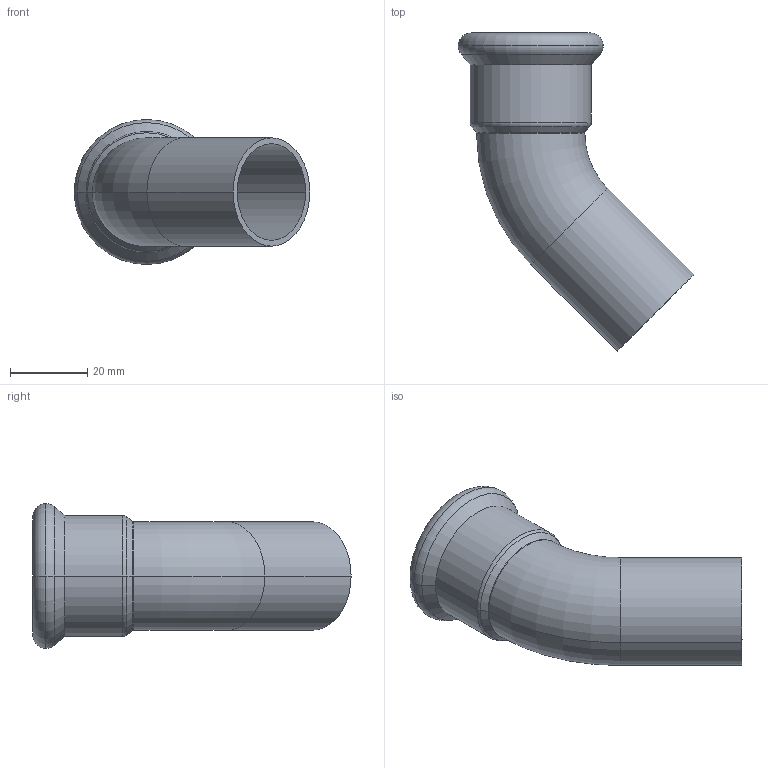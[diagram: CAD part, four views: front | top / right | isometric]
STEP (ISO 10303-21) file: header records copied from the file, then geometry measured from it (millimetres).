
FILE_DESCRIPTION(('CoCreate Modeling STEP Export'),'2;1');
FILE_NAME('C1412 28x28.stp','2014-11-11T16:42:11',(''),(''),'CoCreate Modeling STEP processor for AP214 (Solid Model)','CoCreate Modeling 17.00A 17-Jun-2010 (C) Parametric Technology GmbH','');
FILE_SCHEMA(('AUTOMOTIVE_DESIGN { 1 0 10303 214 1 1 1 1 }'));
Length unit declared in the file: millimetre
Products named in the file (2): C1412_28x28
Assembly tree (1 placements, depth 2):
  C1412_28x28
    C1412_28x28
Bounding box: 60.87 x 82.24 x 37.45 mm (x, y, z)
Volume: 12960 mm3; surface area: 15454.6 mm2
Topology: 1 solids, 1 shells, 32 faces, 69 edges, 41 vertices
Faces by surface type: cylinder 14, torus 10, cone 4, plane 4
Entity records: 753 total; most frequent: ORIENTED_EDGE 138, DIRECTION 116, CARTESIAN_POINT 108, EDGE_CURVE 69, AXIS2_PLACEMENT_3D 49, VERTEX_POINT 41, EDGE_LOOP 36, FACE_OUTER_BOUND 32
